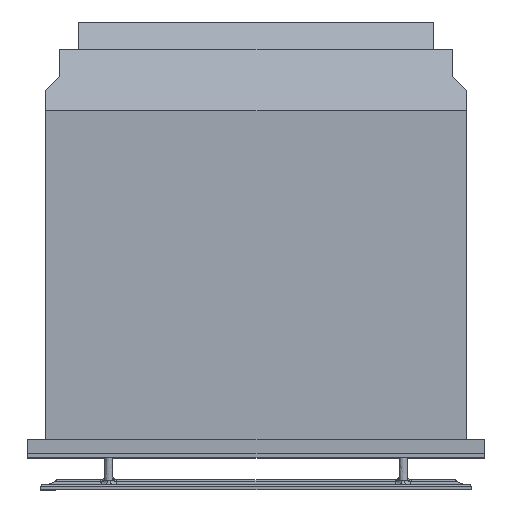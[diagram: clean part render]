
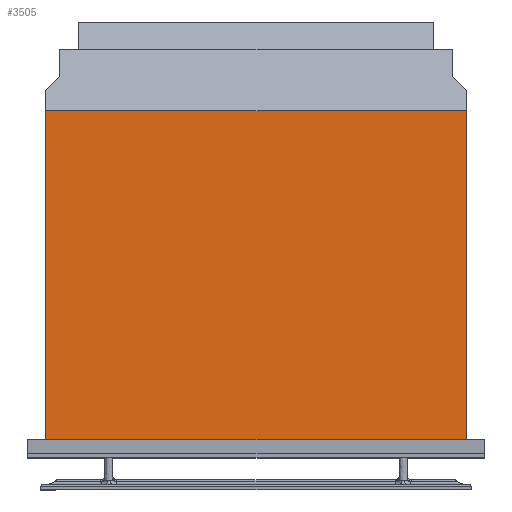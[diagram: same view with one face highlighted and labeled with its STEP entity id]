
A CAD part, top view. The second image highlights one B-rep face of the part: STEP entity #3505.
In plain terms, the highlighted planar face has unit normal (0, 0, 1).
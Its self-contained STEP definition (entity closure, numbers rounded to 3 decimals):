
#845=ORIENTED_EDGE('',*,*,#1261,.T.);
#846=ORIENTED_EDGE('',*,*,#1155,.F.);
#847=ORIENTED_EDGE('',*,*,#1270,.F.);
#848=ORIENTED_EDGE('',*,*,#1263,.T.);
#1155=EDGE_CURVE('',#1455,#1456,#1681,.T.);
#1261=EDGE_CURVE('',#1527,#1456,#1781,.T.);
#1263=EDGE_CURVE('',#1528,#1527,#1783,.T.);
#1270=EDGE_CURVE('',#1528,#1455,#1790,.T.);
#1455=VERTEX_POINT('',#6799);
#1456=VERTEX_POINT('',#6800);
#1527=VERTEX_POINT('',#7047);
#1528=VERTEX_POINT('',#7051);
#1681=LINE('',#6798,#1955);
#1781=LINE('',#7046,#2055);
#1783=LINE('',#7050,#2057);
#1790=LINE('',#7064,#2064);
#1955=VECTOR('',#3926,1000.);
#2055=VECTOR('',#4094,1000.);
#2057=VECTOR('',#4098,1000.);
#2064=VECTOR('',#4113,1000.);
#2212=EDGE_LOOP('',(#845,#846,#847,#848));
#2348=FACE_BOUND('',#2212,.T.);
#2447=PLANE('',#3633);
#3505=ADVANCED_FACE('',(#2348),#2447,.F.);
#3633=AXIS2_PLACEMENT_3D('',#7065,#4114,#4115);
#3926=DIRECTION('',(-1.,0.,0.));
#4094=DIRECTION('',(0.,-1.,0.));
#4098=DIRECTION('',(-1.,0.,0.));
#4113=DIRECTION('',(0.,-1.,0.));
#4114=DIRECTION('',(0.,0.,-1.));
#4115=DIRECTION('',(0.,-1.,0.));
#6798=CARTESIAN_POINT('',(35.859,-240.49,256.09));
#6799=CARTESIAN_POINT('',(35.859,-240.49,256.09));
#6800=CARTESIAN_POINT('',(-513.541,-240.49,256.09));
#7046=CARTESIAN_POINT('',(-513.541,189.885,256.09));
#7047=CARTESIAN_POINT('',(-513.541,189.885,256.09));
#7050=CARTESIAN_POINT('',(35.859,189.885,256.09));
#7051=CARTESIAN_POINT('',(35.859,189.885,256.09));
#7064=CARTESIAN_POINT('',(35.859,189.885,256.09));
#7065=CARTESIAN_POINT('',(35.859,189.885,256.09));
